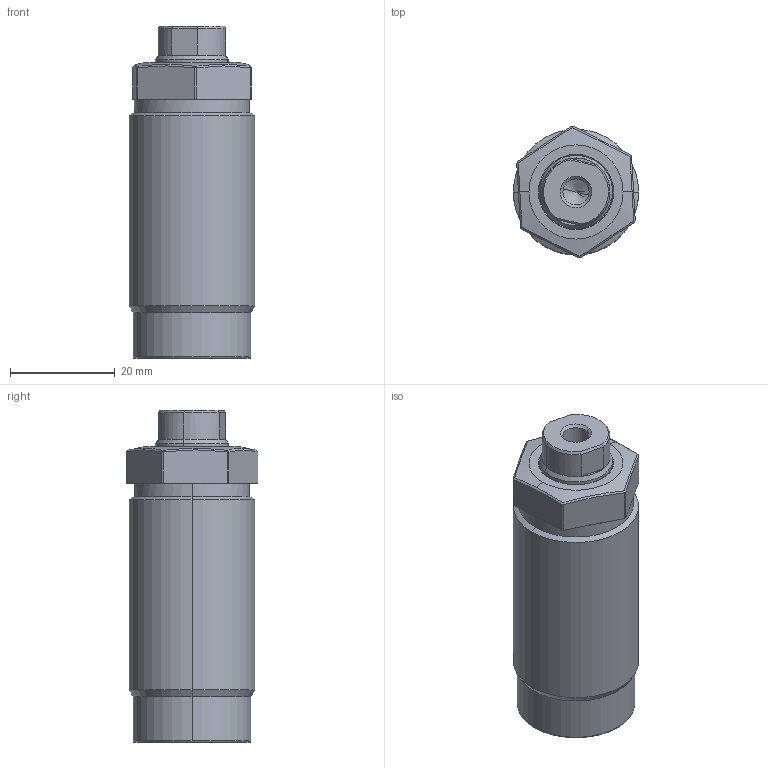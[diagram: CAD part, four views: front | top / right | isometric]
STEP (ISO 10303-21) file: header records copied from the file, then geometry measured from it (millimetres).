
FILE_DESCRIPTION (( 'STEP AP214' ), '1' );
FILE_NAME ('TO3C-M242-L.STEP', '2020-07-09T04:58:15', ( '' ), ( '' ), 'SwSTEP 2.0', 'SolidWorks 2019', '' );
FILE_SCHEMA (( 'AUTOMOTIVE_DESIGN' ));
Length unit declared in the file: millimetre
Products named in the file (3): TO3C-M242-L; M242-L-PLUNGER; TO3C-M242-L-BODY
Assembly tree (2 placements, depth 2):
  TO3C-M242-L
    TO3C-M242-L-BODY
    M242-L-PLUNGER
Bounding box: 24 x 25.18 x 63.5 mm (x, y, z)
Volume: 24535.1 mm3; surface area: 9796.9 mm2
Topology: 2 solids, 2 shells, 81 faces, 184 edges, 110 vertices
Faces by surface type: plane 32, cone 23, cylinder 20, bspline 6
Entity records: 3007 total; most frequent: CARTESIAN_POINT 1092, DIRECTION 371, ORIENTED_EDGE 364, EDGE_CURVE 182, AXIS2_PLACEMENT_3D 145, VERTEX_POINT 110, EDGE_LOOP 86, LINE 81
